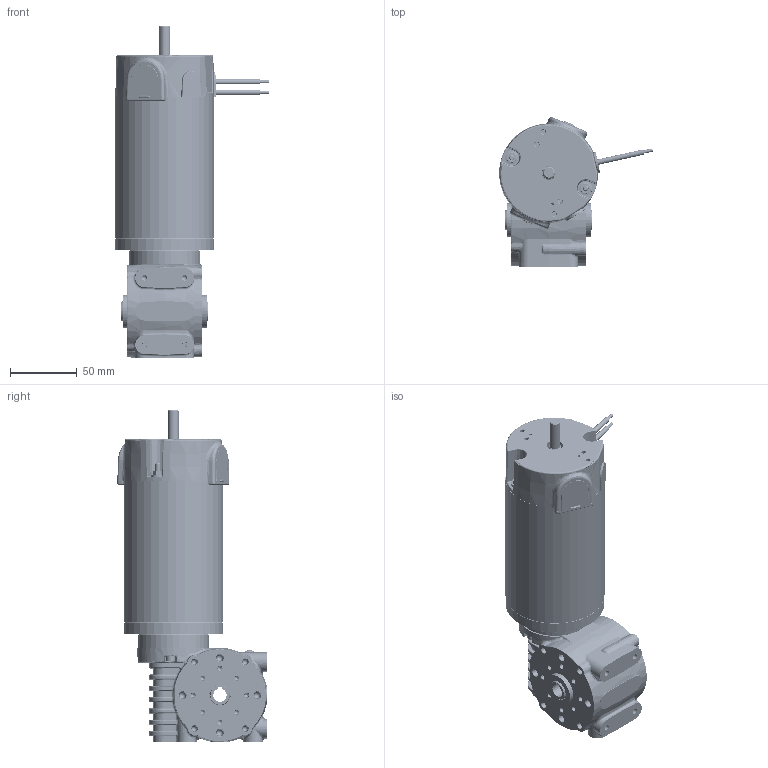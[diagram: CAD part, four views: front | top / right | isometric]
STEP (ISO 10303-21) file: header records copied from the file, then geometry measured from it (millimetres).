
FILE_DESCRIPTION (( 'STEP AP214' ), '1' );
FILE_NAME ('BRx70-60-GB80.STEP', '2025-04-29T07:42:09', ( '' ), ( '' ), 'SwSTEP 2.0', 'SolidWorks 2023', '' );
FILE_SCHEMA (( 'AUTOMOTIVE_DESIGN' ));
Length unit declared in the file: millimetre
Products named in the file (1): BRx70-60-GB80
Bounding box: 115.11 x 111.85 x 248.5 mm (x, y, z)
Volume: 457508.9 mm3; surface area: 211525.9 mm2
Topology: 42 solids, 42 shells, 4353 faces, 10955 edges, 6700 vertices
Faces by surface type: cylinder 1801, plane 836, bspline 617, cone 564, torus 469, sphere 66
Entity records: 213679 total; most frequent: CARTESIAN_POINT 65364, ORIENTED_EDGE 21594, DIRECTION 20816, EDGE_CURVE 10797, AXIS2_PLACEMENT_3D 8555, VERTEX_POINT 6700, CIRCLE 4818, EDGE_LOOP 4621
